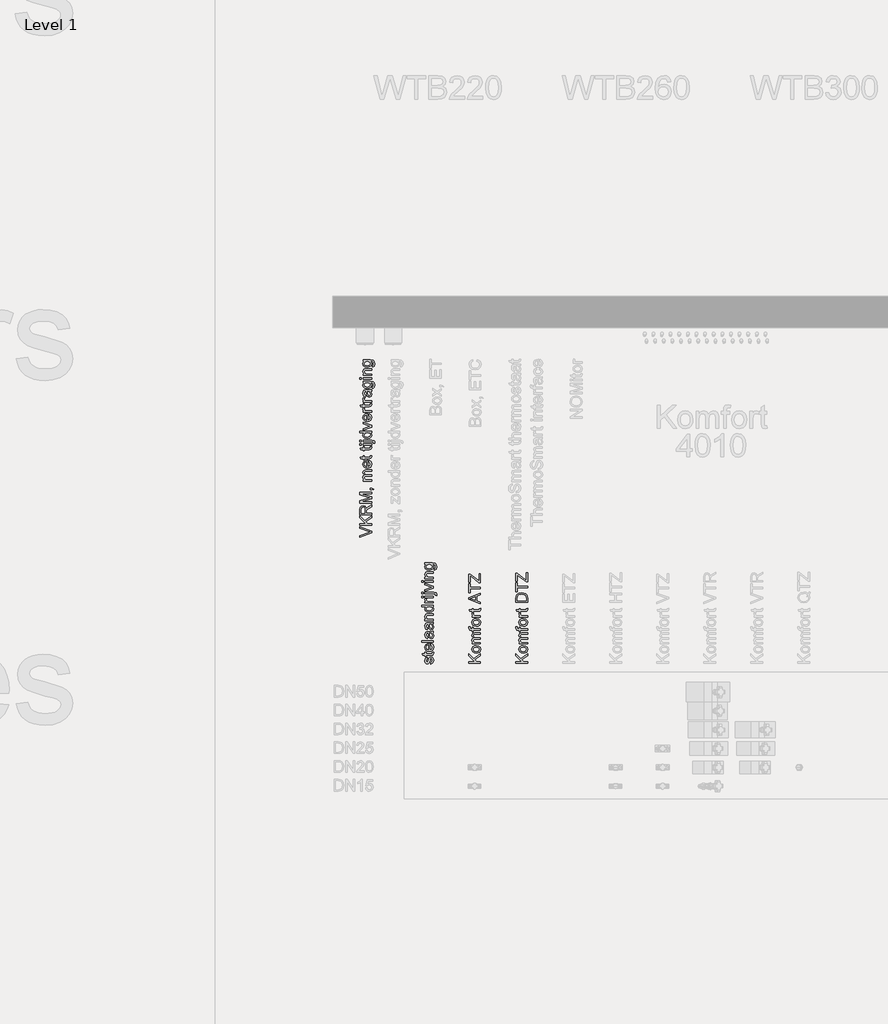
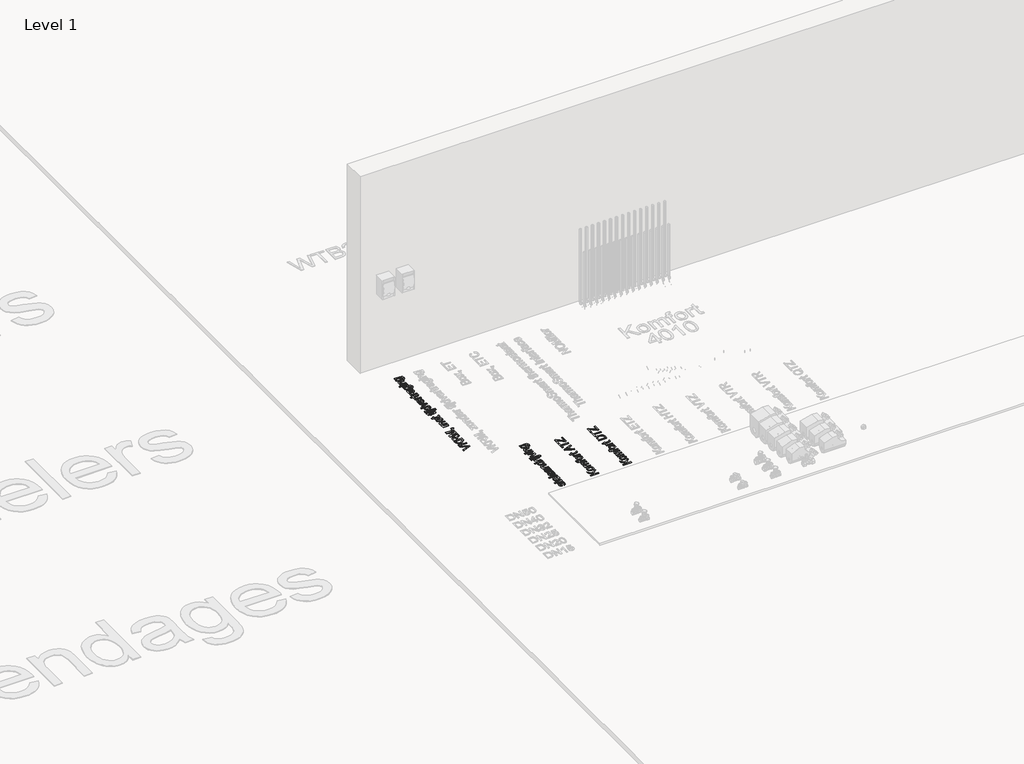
# One storey, part 13 of 34: 4 proxies.
"""IFC4 building model written with IfcOpenShell, lengths in millimetres."""

from ifc_helpers import new_model, si_unit, origin, origin_with_axes, place, context, project, spatial, polyline, outline, extrude, element, save

model = new_model("IFC4")

# Units and contexts
model_context = context("Model", 3, world=origin())
ifc_project = project(units=[si_unit("LENGTHUNIT", "METRE", prefix="MILLI")], contexts=[model_context])

# Site, building, storey
site = spatial("IfcSite", under=ifc_project)
building = spatial("IfcBuilding", under=site)
storey = spatial("IfcBuildingStorey", under=building, Name="Level 1", Elevation=0.0)

# Proxies
placement = place(None, origin())
element("IfcBuildingElementProxy", 1, Name="DN", ObjectType="DN", at=placement, inside=storey, context=model_context, shape_type="SweptSolid", body=[
    extrude(outline(polyline([(-16627.5789075, 5443.2035843), (-16628.7327537, 5452.4343536), (-16621.8817921, 5456.7071901), (-16619.5019844, 5466.4968536), (-16621.6834748, 5475.9079113), (-16626.8036671, 5478.9728151), (-16630.9503018, 5475.8898824), (-16633.5825133, 5466.3886805), (-16638.0987393, 5452.4884401), (-16643.3721768, 5446.4217334), (-16650.8180902, 5444.3574305), (-16657.696095, 5446.0160843), (-16662.9515037, 5450.5413247), (-16665.6828739, 5456.4097142), (-16666.8096768, 5464.3514209), (-16664.9977777, 5475.583392), (-16660.0939316, 5482.7228151), (-16651.8096768, 5485.895892), (-16650.6558306, 5476.6651228), (-16655.7489796, 5473.1945699), (-16657.5789075, 5465.0725747), (-16655.8301094, 5456.2384401), (-16651.7555902, 5453.5881997), (-16649.0692921, 5454.6879593), (-16647.0320325, 5458.131469), (-16645.0668883, 5466.0821901), (-16640.7219364, 5479.630868), (-16635.8000614, 5485.9229353), (-16627.7772248, 5488.2035843), (-16618.9430902, 5485.5263007), (-16612.5338354, 5477.8009401), (-16610.2712152, 5466.3706517), (-16614.634196, 5450.270892), (-16627.5789075, 5443.2035843)])), origin_with_axes(), (0.0, 0.0, 1.0), 5.0),
    extrude(outline(polyline([(-16619.1233787, 5518.2035843), (-16611.1546287, 5519.3574305), (-16610.2712152, 5512.4523824), (-16611.8036671, 5504.7180074), (-16615.8240998, 5500.8598343), (-16626.2988594, 5499.7420459), (-16656.4250614, 5499.7420459), (-16656.4250614, 5492.818969), (-16665.6558306, 5492.818969), (-16665.6558306, 5499.7420459), (-16678.8349171, 5499.7420459), (-16684.2615998, 5508.9728151), (-16665.6558306, 5508.9728151), (-16665.6558306, 5518.2035843), (-16656.4250614, 5518.2035843), (-16656.4250614, 5508.9728151), (-16626.5692921, 5508.9728151), (-16621.8096768, 5509.459594), (-16620.1239796, 5511.037118), (-16619.5019844, 5514.1831517), (-16619.1233787, 5518.2035843)])), origin_with_axes(), (0.0, 0.0, 1.0), 5.0),
    extrude(outline(polyline([(-16627.5789075, 5565.4031036), (-16626.4250614, 5574.4535843), (-16614.5079941, 5565.9890411), (-16610.2712152, 5550.2228151), (-16612.0988895, 5539.3919858), (-16617.5819123, 5531.0581517), (-16626.364214, 5525.7441493), (-16638.0897248, 5523.9728151), (-16650.2096167, 5525.7621781), (-16659.2736191, 5531.130267), (-16664.9256623, 5539.3514209), (-16666.8096768, 5549.6999786), (-16664.9301695, 5559.7262706), (-16659.2916479, 5567.7378392), (-16650.2456743, 5572.9909942), (-16638.1438114, 5574.7420459), (-16635.6558306, 5574.6879593), (-16635.6558306, 5533.2035843), (-16623.6666479, 5538.5130795), (-16619.5019844, 5550.4031036), (-16621.431071, 5559.4535843), (-16627.5789075, 5565.4031036)]), holes=[polyline([(-16644.8865998, 5533.2035843), (-16644.8865998, 5565.5112767), (-16653.2519844, 5561.8153632), (-16657.5789075, 5549.6639209), (-16654.1263835, 5538.2967334), (-16644.8865998, 5533.2035843)])]), origin_with_axes(), (0.0, 0.0, 1.0), 5.0),
    extrude(outline(polyline([(-16611.4250614, 5583.9728151), (-16685.2712152, 5583.9728151), (-16685.2712152, 5593.2035843), (-16611.4250614, 5593.2035843), (-16611.4250614, 5583.9728151)])), origin_with_axes(), (0.0, 0.0, 1.0), 5.0),
    extrude(outline(polyline([(-16618.3481383, 5641.6651228), (-16612.0921287, 5632.7138007), (-16610.2712152, 5622.8249786), (-16614.6522248, 5609.4205315), (-16625.8481383, 5604.7420459), (-16633.149821, 5606.5088728), (-16638.4503018, 5611.1513007), (-16641.4791479, 5617.614642), (-16642.8673691, 5625.6014209), (-16646.040446, 5641.6110363), (-16648.0957344, 5641.6651228), (-16654.9106383, 5639.1230555), (-16657.5789075, 5628.9187286), (-16655.8030662, 5619.5797863), (-16649.5019844, 5615.1266613), (-16650.6558306, 5605.895892), (-16659.6702537, 5609.8892815), (-16664.9527056, 5617.9301468), (-16666.8096768, 5630.1086324), (-16665.1690518, 5641.2955315), (-16661.0494604, 5647.614642), (-16654.7844364, 5650.4451709), (-16646.7075133, 5650.895892), (-16635.2231383, 5650.895892), (-16619.1864796, 5651.364642), (-16611.4250614, 5653.2035843), (-16611.4250614, 5643.9728151), (-16618.3481383, 5641.6651228)]), holes=[polyline([(-16636.8096768, 5641.6651228), (-16633.9791479, 5626.7732959), (-16632.4827537, 5618.8315892), (-16630.0488594, 5615.2348343), (-16626.4971768, 5613.9728151), (-16621.5031864, 5616.7222142), (-16619.5019844, 5624.7901228), (-16621.7105181, 5634.1290651), (-16627.056071, 5640.1506997), (-16634.1954941, 5641.6110363), (-16636.8096768, 5641.6651228)])]), origin_with_axes(), (0.0, 0.0, 1.0), 5.0),
    extrude(outline(polyline([(-16618.3481383, 5698.2035843), (-16612.0921287, 5689.2522622), (-16610.2712152, 5679.3634401), (-16614.6522248, 5665.958993), (-16625.8481383, 5661.2805074), (-16633.149821, 5663.0473343), (-16638.4503018, 5667.6897622), (-16641.4791479, 5674.1531036), (-16642.8673691, 5682.1398824), (-16646.040446, 5698.1494978), (-16648.0957344, 5698.2035843), (-16654.9106383, 5695.661517), (-16657.5789075, 5685.4571901), (-16655.8030662, 5676.1182478), (-16649.5019844, 5671.6651228), (-16650.6558306, 5662.4343536), (-16659.6702537, 5666.427743), (-16664.9527056, 5674.4686084), (-16666.8096768, 5686.647094), (-16665.1690518, 5697.833993), (-16661.0494604, 5704.1531036), (-16654.7844364, 5706.9836324), (-16646.7075133, 5707.4343536), (-16635.2231383, 5707.4343536), (-16619.1864796, 5707.9031036), (-16611.4250614, 5709.7420459), (-16611.4250614, 5700.5112767), (-16618.3481383, 5698.2035843)]), holes=[polyline([(-16636.8096768, 5698.2035843), (-16633.9791479, 5683.3117574), (-16632.4827537, 5675.3700507), (-16630.0488594, 5671.7732959), (-16626.4971768, 5670.5112767), (-16621.5031864, 5673.2606757), (-16619.5019844, 5681.3285843), (-16621.7105181, 5690.6675267), (-16627.056071, 5696.6891613), (-16634.1954941, 5698.1494978), (-16636.8096768, 5698.2035843)])]), origin_with_axes(), (0.0, 0.0, 1.0), 5.0),
    extrude(outline(polyline([(-16611.4250614, 5720.1266613), (-16665.6558306, 5720.1266613), (-16665.6558306, 5729.3574305), (-16658.0837152, 5729.3574305), (-16664.6281864, 5736.4157238), (-16666.8096768, 5746.052142), (-16665.0518643, 5754.7690892), (-16660.4364796, 5760.7186084), (-16653.6486191, 5763.4860363), (-16644.7243402, 5763.9728151), (-16611.4250614, 5763.9728151), (-16611.4250614, 5754.7420459), (-16643.4803498, 5754.7420459), (-16651.6474171, 5753.678344), (-16655.9653258, 5749.9193295), (-16657.5789075, 5743.5821901), (-16653.9551094, 5733.5671661), (-16640.1990998, 5729.3574305), (-16611.4250614, 5729.3574305), (-16611.4250614, 5720.1266613)])), origin_with_axes(), (0.0, 0.0, 1.0), 5.0),
    extrude(outline(polyline([(-16611.4250614, 5810.1266613), (-16620.1329941, 5810.1266613), (-16612.7366599, 5804.0193896), (-16610.2712152, 5795.5773824), (-16613.8409268, 5784.147094), (-16623.8018643, 5776.0701709), (-16638.4863594, 5773.2035843), (-16653.1798691, 5775.8448103), (-16663.2940518, 5783.7594738), (-16666.8096768, 5795.5413247), (-16664.2946527, 5804.0509401), (-16657.759196, 5810.1266613), (-16685.2712152, 5810.1266613), (-16685.2712152, 5819.3574305), (-16611.4250614, 5819.3574305), (-16611.4250614, 5810.1266613)]), holes=[polyline([(-16638.5224171, 5782.4343536), (-16624.2345566, 5786.599017), (-16619.5019844, 5796.4247382), (-16624.0182104, 5806.1332718), (-16637.8192921, 5810.1266613), (-16652.8012633, 5806.0611565), (-16657.5789075, 5796.0461324), (-16652.9905662, 5786.3285843), (-16638.5224171, 5782.4343536)])]), origin_with_axes(), (0.0, 0.0, 1.0), 5.0),
    extrude(outline(polyline([(-16611.4250614, 5833.2035843), (-16665.6558306, 5833.2035843), (-16665.6558306, 5841.2805074), (-16657.6329941, 5841.2805074), (-16665.024821, 5847.0136805), (-16666.8096768, 5852.7829113), (-16663.9611191, 5862.0497382), (-16655.6858787, 5858.9668055), (-16657.5789075, 5852.4764209), (-16655.7579941, 5847.2570699), (-16650.7099171, 5843.9307478), (-16639.9286671, 5842.4343536), (-16611.4250614, 5842.4343536), (-16611.4250614, 5833.2035843)])), origin_with_axes(), (0.0, 0.0, 1.0), 5.0),
    extrude(outline(polyline([(-16676.040446, 5867.818969), (-16685.2712152, 5867.818969), (-16685.2712152, 5877.0497382), (-16676.040446, 5877.0497382), (-16676.040446, 5867.818969)])), origin_with_axes(), (0.0, 0.0, 1.0), 5.0),
    extrude(outline(polyline([(-16611.4250614, 5867.818969), (-16665.6558306, 5867.818969), (-16665.6558306, 5877.0497382), (-16611.4250614, 5877.0497382), (-16611.4250614, 5867.818969)])), origin_with_axes(), (0.0, 0.0, 1.0), 5.0),
    extrude(outline(polyline([(-16676.040446, 5890.895892), (-16685.2712152, 5890.895892), (-16685.2712152, 5900.1266613), (-16676.040446, 5900.1266613), (-16676.040446, 5890.895892)])), origin_with_axes(), (0.0, 0.0, 1.0), 5.0),
    extrude(outline(polyline([(-16590.6197729, 5879.2672863), (-16599.399821, 5881.2144017), (-16598.7327537, 5885.4511805), (-16600.5626816, 5889.552743), (-16609.712321, 5890.895892), (-16665.6558306, 5890.895892), (-16665.6558306, 5900.1266613), (-16608.5224171, 5900.1266613), (-16594.6041479, 5897.5124786), (-16590.7775253, 5893.0954113), (-16589.5019844, 5886.4788247), (-16590.6197729, 5879.2672863)])), origin_with_axes(), (0.0, 0.0, 1.0), 5.0),
    extrude(outline(polyline([(-16611.4250614, 5927.2781036), (-16665.6558306, 5908.2035843), (-16665.6558306, 5917.975219), (-16633.1678498, 5929.5317093), (-16622.2423691, 5933.0112767), (-16632.5548691, 5936.4187286), (-16665.6558306, 5948.0473343), (-16665.6558306, 5957.818969), (-16611.4250614, 5938.9788247), (-16611.4250614, 5927.2781036)])), origin_with_axes(), (0.0, 0.0, 1.0), 5.0),
    extrude(outline(polyline([(-16676.040446, 5965.895892), (-16685.2712152, 5965.895892), (-16685.2712152, 5975.1266613), (-16676.040446, 5975.1266613), (-16676.040446, 5965.895892)])), origin_with_axes(), (0.0, 0.0, 1.0), 5.0),
    extrude(outline(polyline([(-16611.4250614, 5965.895892), (-16665.6558306, 5965.895892), (-16665.6558306, 5975.1266613), (-16611.4250614, 5975.1266613), (-16611.4250614, 5965.895892)])), origin_with_axes(), (0.0, 0.0, 1.0), 5.0),
    extrude(outline(polyline([(-16611.4250614, 5988.9728151), (-16665.6558306, 5988.9728151), (-16665.6558306, 5998.2035843), (-16658.0837152, 5998.2035843), (-16664.6281864, 6005.2618776), (-16666.8096768, 6014.8982959), (-16665.0518643, 6023.615243), (-16660.4364796, 6029.5647622), (-16653.6486191, 6032.3321901), (-16644.7243402, 6032.818969), (-16611.4250614, 6032.818969), (-16611.4250614, 6023.5881997), (-16643.4803498, 6023.5881997), (-16651.6474171, 6022.5244978), (-16655.9653258, 6018.7654834), (-16657.5789075, 6012.428344), (-16653.9551094, 6002.4133199), (-16640.1990998, 5998.2035843), (-16611.4250614, 5998.2035843), (-16611.4250614, 5988.9728151)])), origin_with_axes(), (0.0, 0.0, 1.0), 5.0),
    extrude(outline(polyline([(-16606.8096768, 6043.2035843), (-16605.6558306, 6052.4343536), (-16600.7880421, 6055.427142), (-16598.7327537, 6064.3874786), (-16601.0584748, 6073.834594), (-16607.5849171, 6078.3418055), (-16618.3481383, 6078.9728151), (-16613.1558306, 6072.4734161), (-16611.4250614, 6064.5497382), (-16613.4397849, 6055.032761), (-16619.4839556, 6047.9361565), (-16628.3451335, 6043.5213428), (-16638.8108787, 6042.0497382), (-16653.1167681, 6044.6909642), (-16663.2399652, 6052.3351949), (-16666.8096768, 6064.099017), (-16664.790446, 6072.3336925), (-16658.7327537, 6078.9728151), (-16665.6558306, 6078.9728151), (-16665.6558306, 6088.2035843), (-16618.8349171, 6088.2035843), (-16600.9052296, 6085.6795459), (-16592.5668883, 6077.6837526), (-16589.5019844, 6064.2071901), (-16593.8198931, 6048.8556276), (-16599.2262933, 6044.5174365), (-16606.8096768, 6043.2035843)]), holes=[polyline([(-16639.4418883, 6051.2805074), (-16625.1540277, 6055.2198103), (-16620.6558306, 6065.1086324), (-16625.1269844, 6074.9794257), (-16639.1714556, 6078.9728151), (-16652.9364796, 6074.8622382), (-16657.5789075, 6064.9644017), (-16653.008595, 6055.2738968), (-16639.4418883, 6051.2805074)])]), origin_with_axes(), (0.0, 0.0, 1.0), 5.0),
])
element("IfcBuildingElementProxy", 2, Name="DN", ObjectType="DN", at=placement, inside=storey, context=model_context, shape_type="SweptSolid", body=[
    extrude(outline(polyline([(-16311.4250614, 5447.818969), (-16385.2712152, 5447.818969), (-16385.2712152, 5457.0497382), (-16349.1233787, 5457.0497382), (-16385.2712152, 5494.9103151), (-16385.2712152, 5507.818969), (-16354.9106383, 5476.0341132), (-16311.4250614, 5508.9728151), (-16311.4250614, 5497.6867574), (-16348.6726575, 5469.489642), (-16336.8096768, 5457.0497382), (-16311.4250614, 5457.0497382), (-16311.4250614, 5447.818969)])), origin_with_axes(), (0.0, 0.0, 1.0), 5.0),
    extrude(outline(polyline([(-16338.540446, 5512.4343536), (-16351.6158667, 5514.4310483), (-16360.806071, 5520.4211324), (-16365.3087753, 5527.8219738), (-16366.8096768, 5536.6831517), (-16364.9820025, 5546.3804173), (-16359.4989796, 5554.1260603), (-16350.7933005, 5559.2034341), (-16339.2976575, 5560.895892), (-16322.8733787, 5557.9031036), (-16313.5795085, 5549.1861565), (-16310.2712152, 5536.6831517), (-16312.0921287, 5526.8686985), (-16317.5548691, 5519.1320699), (-16326.4430902, 5514.1087827), (-16338.540446, 5512.4343536)]), holes=[polyline([(-16338.5584748, 5521.6651228), (-16324.2525854, 5525.9379593), (-16319.5019844, 5536.6831517), (-16324.2796287, 5547.3922863), (-16338.8469364, 5551.6651228), (-16352.8283066, 5547.365243), (-16357.5789075, 5536.6831517), (-16352.8463354, 5525.9379593), (-16338.5584748, 5521.6651228)])]), origin_with_axes(), (0.0, 0.0, 1.0), 5.0),
    extrude(outline(polyline([(-16311.4250614, 5571.2805074), (-16365.6558306, 5571.2805074), (-16365.6558306, 5580.5112767), (-16356.7315518, 5580.5112767), (-16364.0422489, 5586.8574305), (-16366.8096768, 5595.8898824), (-16363.9881623, 5605.1386805), (-16356.0825133, 5610.2228151), (-16364.1278859, 5617.4253392), (-16366.8096768, 5626.520892), (-16362.3475373, 5638.5912045), (-16348.6005421, 5642.818969), (-16311.4250614, 5642.818969), (-16311.4250614, 5633.5881997), (-16344.634196, 5633.5881997), (-16352.3415277, 5632.7318295), (-16356.1365998, 5629.630868), (-16357.5789075, 5624.3574305), (-16353.8829941, 5615.2799065), (-16342.0380421, 5611.6651228), (-16311.4250614, 5611.6651228), (-16311.4250614, 5602.4343536), (-16345.6618402, 5602.4343536), (-16354.6041479, 5600.2979353), (-16357.5789075, 5593.2937286), (-16355.5957344, 5586.4607959), (-16349.790446, 5581.9175267), (-16338.774821, 5580.5112767), (-16311.4250614, 5580.5112767), (-16311.4250614, 5571.2805074)])), origin_with_axes(), (0.0, 0.0, 1.0), 5.0),
    extrude(outline(polyline([(-16311.4250614, 5658.9728151), (-16356.4250614, 5658.9728151), (-16356.4250614, 5650.895892), (-16365.6558306, 5650.895892), (-16365.6558306, 5658.9728151), (-16371.118571, 5658.9728151), (-16378.8168883, 5659.9463728), (-16384.3156864, 5664.6699305), (-16386.4250614, 5673.9728151), (-16385.415446, 5682.3922863), (-16376.7615998, 5681.0401228), (-16377.1942921, 5675.7216132), (-16375.6618402, 5669.9073103), (-16369.946696, 5668.2035843), (-16365.6558306, 5668.2035843), (-16365.6558306, 5678.5881997), (-16356.4250614, 5678.5881997), (-16356.4250614, 5668.2035843), (-16311.4250614, 5668.2035843), (-16311.4250614, 5658.9728151)])), origin_with_axes(), (0.0, 0.0, 1.0), 5.0),
    extrude(outline(polyline([(-16338.540446, 5684.3574305), (-16351.6158667, 5686.3541252), (-16360.806071, 5692.3442093), (-16365.3087753, 5699.7450507), (-16366.8096768, 5708.6062286), (-16364.9820025, 5718.3034942), (-16359.4989796, 5726.0491372), (-16350.7933005, 5731.126511), (-16339.2976575, 5732.818969), (-16322.8733787, 5729.8261805), (-16313.5795085, 5721.1092334), (-16310.2712152, 5708.6062286), (-16312.0921287, 5698.7917755), (-16317.5548691, 5691.0551468), (-16326.4430902, 5686.0318596), (-16338.540446, 5684.3574305)]), holes=[polyline([(-16338.5584748, 5693.5881997), (-16324.2525854, 5697.8610363), (-16319.5019844, 5708.6062286), (-16324.2796287, 5719.3153632), (-16338.8469364, 5723.5881997), (-16352.8283066, 5719.2883199), (-16357.5789075, 5708.6062286), (-16352.8463354, 5697.8610363), (-16338.5584748, 5693.5881997)])]), origin_with_axes(), (0.0, 0.0, 1.0), 5.0),
    extrude(outline(polyline([(-16311.4250614, 5743.2035843), (-16365.6558306, 5743.2035843), (-16365.6558306, 5751.2805074), (-16357.6329941, 5751.2805074), (-16365.024821, 5757.0136805), (-16366.8096768, 5762.7829113), (-16363.9611191, 5772.0497382), (-16355.6858787, 5768.9668055), (-16357.5789075, 5762.4764209), (-16355.7579941, 5757.2570699), (-16350.7099171, 5753.9307478), (-16339.9286671, 5752.4343536), (-16311.4250614, 5752.4343536), (-16311.4250614, 5743.2035843)])), origin_with_axes(), (0.0, 0.0, 1.0), 5.0),
    extrude(outline(polyline([(-16319.1233787, 5797.4343536), (-16311.1546287, 5798.5881997), (-16310.2712152, 5791.6831517), (-16311.8036671, 5783.9487767), (-16315.8240998, 5780.0906036), (-16326.2988594, 5778.9728151), (-16356.4250614, 5778.9728151), (-16356.4250614, 5772.0497382), (-16365.6558306, 5772.0497382), (-16365.6558306, 5778.9728151), (-16378.8349171, 5778.9728151), (-16384.2615998, 5788.2035843), (-16365.6558306, 5788.2035843), (-16365.6558306, 5797.4343536), (-16356.4250614, 5797.4343536), (-16356.4250614, 5788.2035843), (-16326.5692921, 5788.2035843), (-16321.8096768, 5788.6903632), (-16320.1239796, 5790.2678872), (-16319.5019844, 5793.4139209), (-16319.1233787, 5797.4343536)])), origin_with_axes(), (0.0, 0.0, 1.0), 5.0),
    extrude(outline(polyline([(-16311.4250614, 5828.0653632), (-16385.2712152, 5857.5425267), (-16385.2712152, 5865.4031036), (-16311.4250614, 5894.880267), (-16311.4250614, 5885.1266613), (-16334.5019844, 5876.6711324), (-16334.5019844, 5846.256469), (-16311.4250614, 5837.818969), (-16311.4250614, 5828.0653632)]), holes=[polyline([(-16343.7327537, 5849.645892), (-16343.7327537, 5873.2997382), (-16361.8878018, 5866.647094), (-16376.040446, 5861.4728151), (-16363.4743402, 5856.8754593), (-16343.7327537, 5849.645892)])]), origin_with_axes(), (0.0, 0.0, 1.0), 5.0),
    extrude(outline(polyline([(-16311.4250614, 5923.2035843), (-16376.040446, 5923.2035843), (-16376.040446, 5898.9728151), (-16385.2712152, 5898.9728151), (-16385.2712152, 5956.6651228), (-16376.040446, 5956.6651228), (-16376.040446, 5932.4343536), (-16311.4250614, 5932.4343536), (-16311.4250614, 5923.2035843)])), origin_with_axes(), (0.0, 0.0, 1.0), 5.0),
    extrude(outline(polyline([(-16311.4250614, 5961.2805074), (-16320.9983787, 5961.2805074), (-16367.2423691, 5999.0509401), (-16376.040446, 6006.2264209), (-16376.040446, 5965.895892), (-16385.2712152, 5965.895892), (-16385.2712152, 6017.818969), (-16376.040446, 6017.818969), (-16325.4334748, 5976.4788247), (-16320.6558306, 5972.584594), (-16320.6558306, 6018.9728151), (-16311.4250614, 6018.9728151), (-16311.4250614, 5961.2805074)])), origin_with_axes(), (0.0, 0.0, 1.0), 5.0),
])
element("IfcBuildingElementProxy", 3, Name="DN", ObjectType="DN", at=placement, inside=storey, context=model_context, shape_type="SweptSolid", body=[
    extrude(outline(polyline([(-16011.4250614, 5447.818969), (-16085.2712152, 5447.818969), (-16085.2712152, 5457.0497382), (-16049.1233787, 5457.0497382), (-16085.2712152, 5494.9103151), (-16085.2712152, 5507.818969), (-16054.9106383, 5476.0341132), (-16011.4250614, 5508.9728151), (-16011.4250614, 5497.6867574), (-16048.6726575, 5469.489642), (-16036.8096768, 5457.0497382), (-16011.4250614, 5457.0497382), (-16011.4250614, 5447.818969)])), origin_with_axes(), (0.0, 0.0, 1.0), 5.0),
    extrude(outline(polyline([(-16038.540446, 5512.4343536), (-16051.6158667, 5514.4310483), (-16060.806071, 5520.4211324), (-16065.3087753, 5527.8219738), (-16066.8096768, 5536.6831517), (-16064.9820025, 5546.3804173), (-16059.4989796, 5554.1260603), (-16050.7933005, 5559.2034341), (-16039.2976575, 5560.895892), (-16022.8733787, 5557.9031036), (-16013.5795085, 5549.1861565), (-16010.2712152, 5536.6831517), (-16012.0921287, 5526.8686985), (-16017.5548691, 5519.1320699), (-16026.4430902, 5514.1087827), (-16038.540446, 5512.4343536)]), holes=[polyline([(-16038.5584748, 5521.6651228), (-16024.2525854, 5525.9379593), (-16019.5019844, 5536.6831517), (-16024.2796287, 5547.3922863), (-16038.8469364, 5551.6651228), (-16052.8283066, 5547.365243), (-16057.5789075, 5536.6831517), (-16052.8463354, 5525.9379593), (-16038.5584748, 5521.6651228)])]), origin_with_axes(), (0.0, 0.0, 1.0), 5.0),
    extrude(outline(polyline([(-16011.4250614, 5571.2805074), (-16065.6558306, 5571.2805074), (-16065.6558306, 5580.5112767), (-16056.7315518, 5580.5112767), (-16064.0422489, 5586.8574305), (-16066.8096768, 5595.8898824), (-16063.9881623, 5605.1386805), (-16056.0825133, 5610.2228151), (-16064.1278859, 5617.4253392), (-16066.8096768, 5626.520892), (-16062.3475373, 5638.5912045), (-16048.6005421, 5642.818969), (-16011.4250614, 5642.818969), (-16011.4250614, 5633.5881997), (-16044.634196, 5633.5881997), (-16052.3415277, 5632.7318295), (-16056.1365998, 5629.630868), (-16057.5789075, 5624.3574305), (-16053.8829941, 5615.2799065), (-16042.0380421, 5611.6651228), (-16011.4250614, 5611.6651228), (-16011.4250614, 5602.4343536), (-16045.6618402, 5602.4343536), (-16054.6041479, 5600.2979353), (-16057.5789075, 5593.2937286), (-16055.5957344, 5586.4607959), (-16049.790446, 5581.9175267), (-16038.774821, 5580.5112767), (-16011.4250614, 5580.5112767), (-16011.4250614, 5571.2805074)])), origin_with_axes(), (0.0, 0.0, 1.0), 5.0),
    extrude(outline(polyline([(-16011.4250614, 5658.9728151), (-16056.4250614, 5658.9728151), (-16056.4250614, 5650.895892), (-16065.6558306, 5650.895892), (-16065.6558306, 5658.9728151), (-16071.118571, 5658.9728151), (-16078.8168883, 5659.9463728), (-16084.3156864, 5664.6699305), (-16086.4250614, 5673.9728151), (-16085.415446, 5682.3922863), (-16076.7615998, 5681.0401228), (-16077.1942921, 5675.7216132), (-16075.6618402, 5669.9073103), (-16069.946696, 5668.2035843), (-16065.6558306, 5668.2035843), (-16065.6558306, 5678.5881997), (-16056.4250614, 5678.5881997), (-16056.4250614, 5668.2035843), (-16011.4250614, 5668.2035843), (-16011.4250614, 5658.9728151)])), origin_with_axes(), (0.0, 0.0, 1.0), 5.0),
    extrude(outline(polyline([(-16038.540446, 5684.3574305), (-16051.6158667, 5686.3541252), (-16060.806071, 5692.3442093), (-16065.3087753, 5699.7450507), (-16066.8096768, 5708.6062286), (-16064.9820025, 5718.3034942), (-16059.4989796, 5726.0491372), (-16050.7933005, 5731.126511), (-16039.2976575, 5732.818969), (-16022.8733787, 5729.8261805), (-16013.5795085, 5721.1092334), (-16010.2712152, 5708.6062286), (-16012.0921287, 5698.7917755), (-16017.5548691, 5691.0551468), (-16026.4430902, 5686.0318596), (-16038.540446, 5684.3574305)]), holes=[polyline([(-16038.5584748, 5693.5881997), (-16024.2525854, 5697.8610363), (-16019.5019844, 5708.6062286), (-16024.2796287, 5719.3153632), (-16038.8469364, 5723.5881997), (-16052.8283066, 5719.2883199), (-16057.5789075, 5708.6062286), (-16052.8463354, 5697.8610363), (-16038.5584748, 5693.5881997)])]), origin_with_axes(), (0.0, 0.0, 1.0), 5.0),
    extrude(outline(polyline([(-16011.4250614, 5743.2035843), (-16065.6558306, 5743.2035843), (-16065.6558306, 5751.2805074), (-16057.6329941, 5751.2805074), (-16065.024821, 5757.0136805), (-16066.8096768, 5762.7829113), (-16063.9611191, 5772.0497382), (-16055.6858787, 5768.9668055), (-16057.5789075, 5762.4764209), (-16055.7579941, 5757.2570699), (-16050.7099171, 5753.9307478), (-16039.9286671, 5752.4343536), (-16011.4250614, 5752.4343536), (-16011.4250614, 5743.2035843)])), origin_with_axes(), (0.0, 0.0, 1.0), 5.0),
    extrude(outline(polyline([(-16019.1233787, 5797.4343536), (-16011.1546287, 5798.5881997), (-16010.2712152, 5791.6831517), (-16011.8036671, 5783.9487767), (-16015.8240998, 5780.0906036), (-16026.2988594, 5778.9728151), (-16056.4250614, 5778.9728151), (-16056.4250614, 5772.0497382), (-16065.6558306, 5772.0497382), (-16065.6558306, 5778.9728151), (-16078.8349171, 5778.9728151), (-16084.2615998, 5788.2035843), (-16065.6558306, 5788.2035843), (-16065.6558306, 5797.4343536), (-16056.4250614, 5797.4343536), (-16056.4250614, 5788.2035843), (-16026.5692921, 5788.2035843), (-16021.8096768, 5788.6903632), (-16020.1239796, 5790.2678872), (-16019.5019844, 5793.4139209), (-16019.1233787, 5797.4343536)])), origin_with_axes(), (0.0, 0.0, 1.0), 5.0),
    extrude(outline(polyline([(-16011.4250614, 5836.6651228), (-16085.2712152, 5836.6651228), (-16085.2712152, 5862.1398824), (-16084.2075133, 5875.318969), (-16078.9250614, 5886.1723343), (-16066.3048691, 5894.9163247), (-16048.7447729, 5897.818969), (-16033.8439316, 5895.8538247), (-16023.0897248, 5890.8057478), (-16016.3920085, 5884.0629593), (-16012.6870806, 5875.2378392), (-16011.4250614, 5863.365844), (-16011.4250614, 5836.6651228)]), holes=[polyline([(-16020.6558306, 5845.895892), (-16020.6558306, 5862.2300267), (-16021.9899652, 5874.1110363), (-16025.7579941, 5880.9619978), (-16034.9256623, 5886.5779834), (-16048.8890037, 5888.5881997), (-16066.3769844, 5884.6488968), (-16074.5620806, 5875.0665651), (-16076.040446, 5861.9776228), (-16076.040446, 5845.895892), (-16020.6558306, 5845.895892)])]), origin_with_axes(), (0.0, 0.0, 1.0), 5.0),
    extrude(outline(polyline([(-16011.4250614, 5928.9728151), (-16076.040446, 5928.9728151), (-16076.040446, 5904.7420459), (-16085.2712152, 5904.7420459), (-16085.2712152, 5962.4343536), (-16076.040446, 5962.4343536), (-16076.040446, 5938.2035843), (-16011.4250614, 5938.2035843), (-16011.4250614, 5928.9728151)])), origin_with_axes(), (0.0, 0.0, 1.0), 5.0),
    extrude(outline(polyline([(-16011.4250614, 5967.0497382), (-16020.9983787, 5967.0497382), (-16067.2423691, 6004.8201709), (-16076.040446, 6011.9956517), (-16076.040446, 5971.6651228), (-16085.2712152, 5971.6651228), (-16085.2712152, 6023.5881997), (-16076.040446, 6023.5881997), (-16025.4334748, 5982.2480555), (-16020.6558306, 5978.3538247), (-16020.6558306, 6024.7420459), (-16011.4250614, 6024.7420459), (-16011.4250614, 5967.0497382)])), origin_with_axes(), (0.0, 0.0, 1.0), 5.0),
])
element("IfcBuildingElementProxy", 4, Name="DN", ObjectType="DN", at=placement, inside=storey, context=model_context, shape_type="SweptSolid", body=[
    extrude(outline(polyline([(-17006.9848175, 6282.0085474), (-17080.8309713, 6252.6215282), (-17080.8309713, 6262.5013359), (-17027.6278463, 6282.1708071), (-17015.6386636, 6286.1551821), (-17027.6278463, 6290.0854705), (-17080.8309713, 6309.8090282), (-17080.8309713, 6319.6888359), (-17006.9848175, 6291.5458071), (-17006.9848175, 6282.0085474)])), origin_with_axes(), (0.0, 0.0, 1.0), 5.0),
    extrude(outline(polyline([(-17006.9848175, 6328.2705667), (-17080.8309713, 6328.2705667), (-17080.8309713, 6337.5013359), (-17044.6831348, 6337.5013359), (-17080.8309713, 6375.3619128), (-17080.8309713, 6388.2705667), (-17050.4703944, 6356.4857109), (-17006.9848175, 6389.4244128), (-17006.9848175, 6378.1383551), (-17044.2324136, 6349.9412397), (-17032.3694329, 6337.5013359), (-17006.9848175, 6337.5013359), (-17006.9848175, 6328.2705667)])), origin_with_axes(), (0.0, 0.0, 1.0), 5.0),
    extrude(outline(polyline([(-17006.9848175, 6396.3474897), (-17080.8309713, 6396.3474897), (-17080.8309713, 6428.1684032), (-17078.8387838, 6442.9430426), (-17071.789505, 6451.0199657), (-17060.6206348, 6454.0397974), (-17047.3153463, 6449.0367926), (-17040.4463559, 6433.5770571), (-17036.4980386, 6438.8234513), (-17026.9968367, 6446.3054224), (-17006.9848175, 6458.6191244), (-17006.9848175, 6447.8919609), (-17022.2913079, 6438.2825859), (-17032.4235194, 6431.3414801), (-17037.210178, 6426.4646772), (-17038.9679905, 6422.0746532), (-17039.2925098, 6416.7200859), (-17039.2925098, 6405.578259), (-17006.9848175, 6405.578259), (-17006.9848175, 6396.3474897)]), holes=[polyline([(-17048.523279, 6405.578259), (-17048.523279, 6426.2393167), (-17049.8303704, 6436.7771772), (-17054.0130627, 6442.7627542), (-17060.2780867, 6444.8090282), (-17068.4090963, 6440.905783), (-17071.6002021, 6428.5650378), (-17071.6002021, 6405.578259), (-17048.523279, 6405.578259)])]), origin_with_axes(), (0.0, 0.0, 1.0), 5.0),
    extrude(outline(polyline([(-17006.9848175, 6470.1936436), (-17080.8309713, 6470.1936436), (-17080.8309713, 6486.0770571), (-17028.7816925, 6501.1852301), (-17017.9102982, 6504.2321051), (-17029.6831348, 6507.531384), (-17080.8309713, 6522.3871532), (-17080.8309713, 6538.2705667), (-17006.9848175, 6538.2705667), (-17006.9848175, 6529.0397974), (-17071.6002021, 6529.0397974), (-17006.9848175, 6510.4881147), (-17006.9848175, 6497.9760955), (-17071.6002021, 6479.4244128), (-17006.9848175, 6479.4244128), (-17006.9848175, 6470.1936436)])), origin_with_axes(), (0.0, 0.0, 1.0), 5.0),
    extrude(outline(polyline([(-17006.9848175, 6555.578259), (-17016.2155867, 6555.578259), (-17016.2155867, 6564.8090282), (-17006.9848175, 6564.8090282), (-16997.5467165, 6563.1503744), (-16991.9848175, 6557.8859513), (-16995.4463559, 6555.578259), (-16999.4307309, 6558.9676821), (-17006.9848175, 6560.1756147), (-17006.9848175, 6555.578259)])), origin_with_axes(), (0.0, 0.0, 1.0), 5.0),
    extrude(outline(polyline([(-17006.9848175, 6610.9628744), (-17061.2155867, 6610.9628744), (-17061.2155867, 6620.1936436), (-17052.2913079, 6620.1936436), (-17059.602005, 6626.5397974), (-17062.3694329, 6635.5722494), (-17059.5479184, 6644.8210474), (-17051.6422694, 6649.9051821), (-17059.687642, 6657.1077061), (-17062.3694329, 6666.203259), (-17057.9072934, 6678.2735715), (-17044.1602982, 6682.5013359), (-17006.9848175, 6682.5013359), (-17006.9848175, 6673.2705667), (-17040.1939521, 6673.2705667), (-17047.9012838, 6672.4141965), (-17051.6963559, 6669.3132349), (-17053.1386636, 6664.0397974), (-17049.4427502, 6654.9622734), (-17037.5977982, 6651.3474897), (-17006.9848175, 6651.3474897), (-17006.9848175, 6642.1167205), (-17041.2215963, 6642.1167205), (-17050.163904, 6639.9803022), (-17053.1386636, 6632.9760955), (-17051.1554905, 6626.1431628), (-17045.3502021, 6621.5998936), (-17034.3345771, 6620.1936436), (-17006.9848175, 6620.1936436), (-17006.9848175, 6610.9628744)])), origin_with_axes(), (0.0, 0.0, 1.0), 5.0),
    extrude(outline(polyline([(-17023.1386636, 6734.3162397), (-17021.9848175, 6743.3667205), (-17010.0677502, 6734.9021772), (-17005.8309713, 6719.1359513), (-17007.6586456, 6708.305122), (-17013.1416684, 6699.9712878), (-17021.9239701, 6694.6572854), (-17033.6494809, 6692.8859513), (-17045.7693728, 6694.6753143), (-17054.8333752, 6700.0434032), (-17060.4854184, 6708.2645571), (-17062.3694329, 6718.6131147), (-17060.4899256, 6728.6394068), (-17054.851404, 6736.6509753), (-17045.8054305, 6741.9041304), (-17033.7035675, 6743.6551821), (-17031.2155867, 6743.6010955), (-17031.2155867, 6702.1167205), (-17019.226404, 6707.4262157), (-17015.0617405, 6719.3162397), (-17016.9908271, 6728.3667205), (-17023.1386636, 6734.3162397)]), holes=[polyline([(-17040.4463559, 6702.1167205), (-17040.4463559, 6734.4244128), (-17048.8117405, 6730.7284994), (-17053.1386636, 6718.5770571), (-17049.6861396, 6707.2098696), (-17040.4463559, 6702.1167205)])]), origin_with_axes(), (0.0, 0.0, 1.0), 5.0),
    extrude(outline(polyline([(-17014.6831348, 6772.5013359), (-17006.7143848, 6773.6551821), (-17005.8309713, 6766.750134), (-17007.3634232, 6759.015759), (-17011.3838559, 6755.1575859), (-17021.8586155, 6754.0397974), (-17051.9848175, 6754.0397974), (-17051.9848175, 6747.1167205), (-17061.2155867, 6747.1167205), (-17061.2155867, 6754.0397974), (-17074.3946732, 6754.0397974), (-17079.8213559, 6763.2705667), (-17061.2155867, 6763.2705667), (-17061.2155867, 6772.5013359), (-17051.9848175, 6772.5013359), (-17051.9848175, 6763.2705667), (-17022.1290482, 6763.2705667), (-17017.3694329, 6763.7573455), (-17015.6837357, 6765.3348696), (-17015.0617405, 6768.4809032), (-17014.6831348, 6772.5013359)])), origin_with_axes(), (0.0, 0.0, 1.0), 5.0),
    extrude(outline(polyline([(-17014.6831348, 6830.1936436), (-17006.7143848, 6831.3474897), (-17005.8309713, 6824.4424417), (-17007.3634232, 6816.7080667), (-17011.3838559, 6812.8498936), (-17021.8586155, 6811.7321051), (-17051.9848175, 6811.7321051), (-17051.9848175, 6804.8090282), (-17061.2155867, 6804.8090282), (-17061.2155867, 6811.7321051), (-17074.3946732, 6811.7321051), (-17079.8213559, 6820.9628744), (-17061.2155867, 6820.9628744), (-17061.2155867, 6830.1936436), (-17051.9848175, 6830.1936436), (-17051.9848175, 6820.9628744), (-17022.1290482, 6820.9628744), (-17017.3694329, 6821.4496532), (-17015.6837357, 6823.0271772), (-17015.0617405, 6826.1732109), (-17014.6831348, 6830.1936436)])), origin_with_axes(), (0.0, 0.0, 1.0), 5.0),
    extrude(outline(polyline([(-17071.6002021, 6839.4244128), (-17080.8309713, 6839.4244128), (-17080.8309713, 6848.6551821), (-17071.6002021, 6848.6551821), (-17071.6002021, 6839.4244128)])), origin_with_axes(), (0.0, 0.0, 1.0), 5.0),
    extrude(outline(polyline([(-17006.9848175, 6839.4244128), (-17061.2155867, 6839.4244128), (-17061.2155867, 6848.6551821), (-17006.9848175, 6848.6551821), (-17006.9848175, 6839.4244128)])), origin_with_axes(), (0.0, 0.0, 1.0), 5.0),
    extrude(outline(polyline([(-17071.6002021, 6862.5013359), (-17080.8309713, 6862.5013359), (-17080.8309713, 6871.7321051), (-17071.6002021, 6871.7321051), (-17071.6002021, 6862.5013359)])), origin_with_axes(), (0.0, 0.0, 1.0), 5.0),
    extrude(outline(polyline([(-16986.179529, 6850.8727301), (-16994.9595771, 6852.8198455), (-16994.2925098, 6857.0566244), (-16996.1224377, 6861.1581869), (-17005.2720771, 6862.5013359), (-17061.2155867, 6862.5013359), (-17061.2155867, 6871.7321051), (-17004.0821732, 6871.7321051), (-16990.163904, 6869.1179224), (-16986.3372814, 6864.7008551), (-16985.0617405, 6858.0842686), (-16986.179529, 6850.8727301)])), origin_with_axes(), (0.0, 0.0, 1.0), 5.0),
    extrude(outline(polyline([(-17006.9848175, 6919.0397974), (-17015.6927502, 6919.0397974), (-17008.296416, 6912.9325258), (-17005.8309713, 6904.4905186), (-17009.4006829, 6893.0602301), (-17019.3616204, 6884.9833071), (-17034.0461155, 6882.1167205), (-17048.7396252, 6884.7579465), (-17058.8538079, 6892.6726099), (-17062.3694329, 6904.4544609), (-17059.8544088, 6912.9640763), (-17053.3189521, 6919.0397974), (-17080.8309713, 6919.0397974), (-17080.8309713, 6928.2705667), (-17006.9848175, 6928.2705667), (-17006.9848175, 6919.0397974)]), holes=[polyline([(-17034.0821732, 6891.3474897), (-17019.7943127, 6895.5121532), (-17015.0617405, 6905.3378744), (-17019.5779665, 6915.046408), (-17033.3790482, 6919.0397974), (-17048.3610194, 6914.9742926), (-17053.1386636, 6904.9592686), (-17048.5503223, 6895.2417205), (-17034.0821732, 6891.3474897)])]), origin_with_axes(), (0.0, 0.0, 1.0), 5.0),
    extrude(outline(polyline([(-17006.9848175, 6955.422009), (-17061.2155867, 6936.3474897), (-17061.2155867, 6946.1191244), (-17028.7276059, 6957.6756147), (-17017.8021252, 6961.1551821), (-17028.1146252, 6964.562634), (-17061.2155867, 6976.1912397), (-17061.2155867, 6985.9628744), (-17006.9848175, 6967.1227301), (-17006.9848175, 6955.422009)])), origin_with_axes(), (0.0, 0.0, 1.0), 5.0),
    extrude(outline(polyline([(-17023.1386636, 7032.0085474), (-17021.9848175, 7041.0590282), (-17010.0677502, 7032.5944849), (-17005.8309713, 7016.828259), (-17007.6586456, 7005.9974297), (-17013.1416684, 6997.6635955), (-17021.9239701, 6992.3495931), (-17033.6494809, 6990.578259), (-17045.7693728, 6992.367622), (-17054.8333752, 6997.7357109), (-17060.4854184, 7005.9568647), (-17062.3694329, 7016.3054224), (-17060.4899256, 7026.3317145), (-17054.851404, 7034.343283), (-17045.8054305, 7039.5964381), (-17033.7035675, 7041.3474897), (-17031.2155867, 7041.2934032), (-17031.2155867, 6999.8090282), (-17019.226404, 7005.1185234), (-17015.0617405, 7017.0085474), (-17016.9908271, 7026.0590282), (-17023.1386636, 7032.0085474)]), holes=[polyline([(-17040.4463559, 6999.8090282), (-17040.4463559, 7032.1167205), (-17048.8117405, 7028.4208071), (-17053.1386636, 7016.2693647), (-17049.6861396, 7004.9021772), (-17040.4463559, 6999.8090282)])]), origin_with_axes(), (0.0, 0.0, 1.0), 5.0),
    extrude(outline(polyline([(-17006.9848175, 7050.578259), (-17061.2155867, 7050.578259), (-17061.2155867, 7058.6551821), (-17053.1927502, 7058.6551821), (-17060.5845771, 7064.3883551), (-17062.3694329, 7070.1575859), (-17059.5208752, 7079.4244128), (-17051.2456348, 7076.3414801), (-17053.1386636, 7069.8510955), (-17051.3177502, 7064.6317446), (-17046.2696732, 7061.3054224), (-17035.4884232, 7059.8090282), (-17006.9848175, 7059.8090282), (-17006.9848175, 7050.578259)])), origin_with_axes(), (0.0, 0.0, 1.0), 5.0),
    extrude(outline(polyline([(-17014.6831348, 7104.8090282), (-17006.7143848, 7105.9628744), (-17005.8309713, 7099.0578263), (-17007.3634232, 7091.3234513), (-17011.3838559, 7087.4652782), (-17021.8586155, 7086.3474897), (-17051.9848175, 7086.3474897), (-17051.9848175, 7079.4244128), (-17061.2155867, 7079.4244128), (-17061.2155867, 7086.3474897), (-17074.3946732, 7086.3474897), (-17079.8213559, 7095.578259), (-17061.2155867, 7095.578259), (-17061.2155867, 7104.8090282), (-17051.9848175, 7104.8090282), (-17051.9848175, 7095.578259), (-17022.1290482, 7095.578259), (-17017.3694329, 7096.0650378), (-17015.6837357, 7097.6425619), (-17015.0617405, 7100.7885955), (-17014.6831348, 7104.8090282)])), origin_with_axes(), (0.0, 0.0, 1.0), 5.0),
    extrude(outline(polyline([(-17006.9848175, 7114.0397974), (-17061.2155867, 7114.0397974), (-17061.2155867, 7122.1167205), (-17053.1927502, 7122.1167205), (-17060.5845771, 7127.8498936), (-17062.3694329, 7133.6191244), (-17059.5208752, 7142.8859513), (-17051.2456348, 7139.8030186), (-17053.1386636, 7133.312634), (-17051.3177502, 7128.093283), (-17046.2696732, 7124.7669609), (-17035.4884232, 7123.2705667), (-17006.9848175, 7123.2705667), (-17006.9848175, 7114.0397974)])), origin_with_axes(), (0.0, 0.0, 1.0), 5.0),
    extrude(outline(polyline([(-17013.9078944, 7183.2705667), (-17007.6518848, 7174.3192446), (-17005.8309713, 7164.4304224), (-17010.2119809, 7151.0259753), (-17021.4078944, 7146.3474897), (-17028.7095771, 7148.1143167), (-17034.0100579, 7152.7567446), (-17037.038904, 7159.2200859), (-17038.4271252, 7167.2068647), (-17041.6002021, 7183.2164801), (-17043.6554905, 7183.2705667), (-17050.4703944, 7180.7284994), (-17053.1386636, 7170.5241724), (-17051.3628223, 7161.1852301), (-17045.0617405, 7156.7321051), (-17046.2155867, 7147.5013359), (-17055.2300098, 7151.4947253), (-17060.5124617, 7159.5355907), (-17062.3694329, 7171.7140763), (-17060.7288079, 7182.9009753), (-17056.6092165, 7189.2200859), (-17050.3441925, 7192.0506147), (-17042.2672694, 7192.5013359), (-17030.7828944, 7192.5013359), (-17014.7462357, 7192.9700859), (-17006.9848175, 7194.8090282), (-17006.9848175, 7185.578259), (-17013.9078944, 7183.2705667)]), holes=[polyline([(-17032.3694329, 7183.2705667), (-17029.538904, 7168.3787397), (-17028.0425098, 7160.437033), (-17025.6086155, 7156.8402782), (-17022.0569329, 7155.578259), (-17017.0629425, 7158.327658), (-17015.0617405, 7166.3955667), (-17017.2702742, 7175.734509), (-17022.6158271, 7181.7561436), (-17029.7552502, 7183.2164801), (-17032.3694329, 7183.2705667)])]), origin_with_axes(), (0.0, 0.0, 1.0), 5.0),
    extrude(outline(polyline([(-17002.3694329, 7202.8859513), (-17001.2155867, 7212.1167205), (-16996.3477982, 7215.109509), (-16994.2925098, 7224.0698455), (-16996.6182309, 7233.5169609), (-17003.1446732, 7238.0241724), (-17013.9078944, 7238.6551821), (-17008.7155867, 7232.155783), (-17006.9848175, 7224.2321051), (-17008.999541, 7214.715128), (-17015.0437117, 7207.6185234), (-17023.9048896, 7203.2037097), (-17034.3706348, 7201.7321051), (-17048.6765242, 7204.3733311), (-17058.7997213, 7212.0175619), (-17062.3694329, 7223.781384), (-17060.3502021, 7232.0160595), (-17054.2925098, 7238.6551821), (-17061.2155867, 7238.6551821), (-17061.2155867, 7247.8859513), (-17014.3946732, 7247.8859513), (-16996.4649857, 7245.3619128), (-16988.1266444, 7237.3661196), (-16985.0617405, 7223.8895571), (-16989.3796492, 7208.5379946), (-16994.7860494, 7204.1998035), (-17002.3694329, 7202.8859513)]), holes=[polyline([(-17035.0016444, 7210.9628744), (-17020.7137838, 7214.9021772), (-17016.2155867, 7224.7909994), (-17020.6867405, 7234.6617926), (-17034.7312117, 7238.6551821), (-17048.4962357, 7234.5446051), (-17053.1386636, 7224.6467686), (-17048.5683511, 7214.9562638), (-17035.0016444, 7210.9628744)])]), origin_with_axes(), (0.0, 0.0, 1.0), 5.0),
    extrude(outline(polyline([(-17071.6002021, 7261.7321051), (-17080.8309713, 7261.7321051), (-17080.8309713, 7270.9628744), (-17071.6002021, 7270.9628744), (-17071.6002021, 7261.7321051)])), origin_with_axes(), (0.0, 0.0, 1.0), 5.0),
    extrude(outline(polyline([(-17006.9848175, 7261.7321051), (-17061.2155867, 7261.7321051), (-17061.2155867, 7270.9628744), (-17006.9848175, 7270.9628744), (-17006.9848175, 7261.7321051)])), origin_with_axes(), (0.0, 0.0, 1.0), 5.0),
    extrude(outline(polyline([(-17006.9848175, 7284.8090282), (-17061.2155867, 7284.8090282), (-17061.2155867, 7294.0397974), (-17053.6434713, 7294.0397974), (-17060.1879425, 7301.0980907), (-17062.3694329, 7310.734509), (-17060.6116204, 7319.4514561), (-17055.9962357, 7325.4009753), (-17049.2083752, 7328.1684032), (-17040.2840963, 7328.6551821), (-17006.9848175, 7328.6551821), (-17006.9848175, 7319.4244128), (-17039.0401059, 7319.4244128), (-17047.2071732, 7318.3607109), (-17051.5250819, 7314.6016965), (-17053.1386636, 7308.2645571), (-17049.5148655, 7298.249533), (-17035.7588559, 7294.0397974), (-17006.9848175, 7294.0397974), (-17006.9848175, 7284.8090282)])), origin_with_axes(), (0.0, 0.0, 1.0), 5.0),
    extrude(outline(polyline([(-17002.3694329, 7339.0397974), (-17001.2155867, 7348.2705667), (-16996.3477982, 7351.2633551), (-16994.2925098, 7360.2236917), (-16996.6182309, 7369.6708071), (-17003.1446732, 7374.1780186), (-17013.9078944, 7374.8090282), (-17008.7155867, 7368.3096292), (-17006.9848175, 7360.3859513), (-17008.999541, 7350.8689741), (-17015.0437117, 7343.7723696), (-17023.9048896, 7339.3575559), (-17034.3706348, 7337.8859513), (-17048.6765242, 7340.5271772), (-17058.7997213, 7348.171408), (-17062.3694329, 7359.9352301), (-17060.3502021, 7368.1699056), (-17054.2925098, 7374.8090282), (-17061.2155867, 7374.8090282), (-17061.2155867, 7384.0397974), (-17014.3946732, 7384.0397974), (-16996.4649857, 7381.515759), (-16988.1266444, 7373.5199657), (-16985.0617405, 7360.0434032), (-16989.3796492, 7344.6918407), (-16994.7860494, 7340.3536496), (-17002.3694329, 7339.0397974)]), holes=[polyline([(-17035.0016444, 7347.1167205), (-17020.7137838, 7351.0560234), (-17016.2155867, 7360.9448455), (-17020.6867405, 7370.8156388), (-17034.7312117, 7374.8090282), (-17048.4962357, 7370.6984513), (-17053.1386636, 7360.8006147), (-17048.5683511, 7351.1101099), (-17035.0016444, 7347.1167205)])]), origin_with_axes(), (0.0, 0.0, 1.0), 5.0),
])

save(model, "model.ifc")
